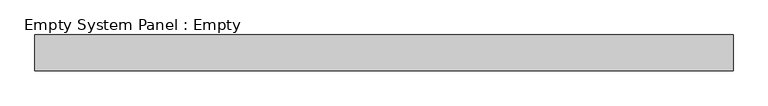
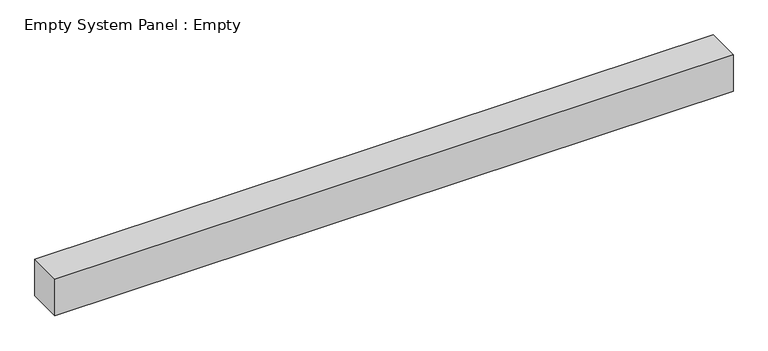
"""IFC4 building model written with IfcOpenShell, lengths in millimetres: plate geometry, Empty System Panel : Empty."""

from ifc_helpers import new_model, si_unit, origin, origin_with_axes, place, context, project, spatial, polyline, outline, extrude, source, transform, mapped, element, save


def empty_system_panel_empty_6f6190f9(model_context):
    return source(origin(), model_context, "Body", "SweptSolid", [
        extrude(outline(polyline([(975.0, -50.0), (-975.0, -50.0), (-975.0, 50.0), (975.0, 50.0), (975.0, -50.0)])), origin_with_axes(), (0.0, 0.0, 1.0), 110.0),
    ])


if __name__ == "__main__":
    model = new_model("IFC4")
    model_context = context("Model", 3, world=origin())
    ifc_project = project(units=[si_unit("LENGTHUNIT", "METRE", prefix="MILLI")], contexts=[model_context])
    site = spatial("IfcSite", under=ifc_project)
    building = spatial("IfcBuilding", under=site)
    placement = place(None, origin())
    empty_system_panel_empty_shape = empty_system_panel_empty_6f6190f9(model_context)
    element("IfcPlate", 1, ObjectType="Empty System Panel : Empty", at=placement, inside=building, context=model_context, shape_type="MappedRepresentation", body=[
        mapped(empty_system_panel_empty_shape, transform((0.0, 0.0, 0.0), x_axis=(1.0, 0.0, 0.0), y_axis=(0.0, 1.0, 0.0), z_axis=(0.0, 0.0, 1.0))),
    ])
    save(model, "model.ifc")
